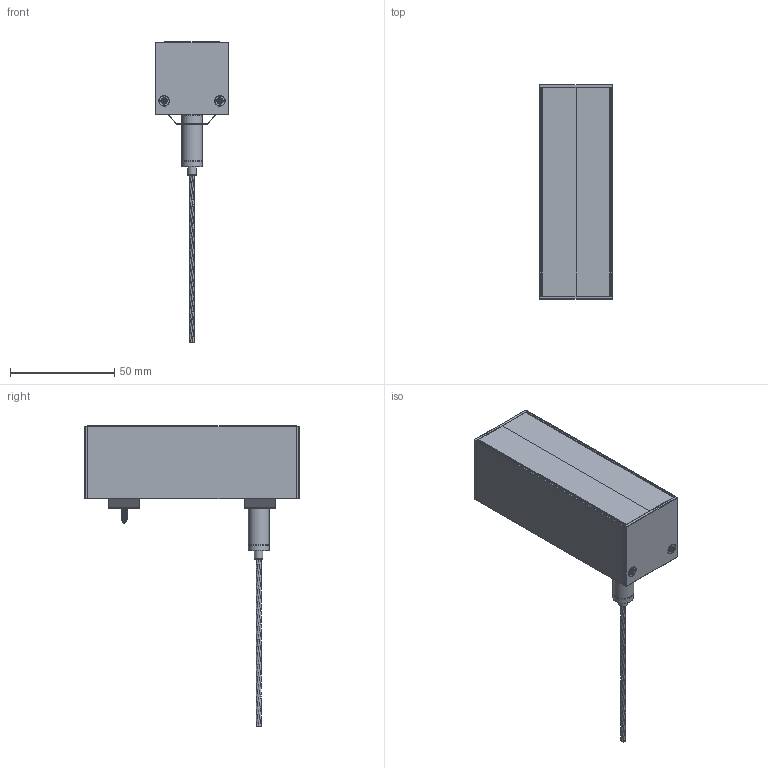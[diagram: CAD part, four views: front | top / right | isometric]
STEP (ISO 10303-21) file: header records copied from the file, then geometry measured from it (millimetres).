
FILE_DESCRIPTION(/* description */ (''),/* implementation_level */ '2;1');
FILE_NAME(/* name */ 'c:\worker\convert-fusion-r02\tmp\job-1\621\output\files\6b79904f-203b-46d6-b9c4-cc04599f76e3\4ea43c37-8f3c-4790-a07c-ec222858535b.stp',/* time_stamp */ '2022-03-30T12:53:31+00:00',/* author */ (''),/* organization */ (''),/* preprocessor_version */ 'ST-DEVELOPER v18.1',/* originating_system */ 'Autodesk Translation Framework v10.14.0.1471',/* authorisation */ '');
FILE_SCHEMA (('AUTOMOTIVE_DESIGN { 1 0 10303 214 3 1 1 }'));
Length unit declared in the file: millimetre
Products named in the file (15): CHAN-3535R3; Aluminium Profile; Light Diffuser / Lens; End Cap; Mounting Bracket; M3x6mm; Suspension Mount; Component23; Suspension Wire; Component25; Component26; Component28; Component27; Component29; LED Strip Light
Assembly tree (22 placements, depth 3):
  CHAN-3535R3
    Aluminium Profile
    Light Diffuser / Lens
    Mounting Bracket  x2
    M3x6mm  x6
    End Cap  x2
    Suspension Mount
      Component23
    Suspension Wire
      Component25
      Component26
      Component28
      Component27
      Component29
    LED Strip Light  x2
Bounding box: 35 x 103.42 x 143.97 mm (x, y, z)
Volume: 33121.9 mm3; surface area: 51029.4 mm2
Topology: 106 solids, 106 shells, 1690 faces, 4003 edges, 2535 vertices
Faces by surface type: plane 802, cylinder 486, bspline 144, sphere 112, torus 106, cone 40
Full cylindrical faces by diameter (mm): 2.356 x24, 2.927 x42, 3 x4, 4 x4, 9.7 x1, 10 x3
Entity records: 28242 total; most frequent: CARTESIAN_POINT 8219, ORIENTED_EDGE 4042, DIRECTION 4007, EDGE_CURVE 2021, LINE 1461, VECTOR 1461, VERTEX_POINT 1319, AXIS2_PLACEMENT_3D 1273
